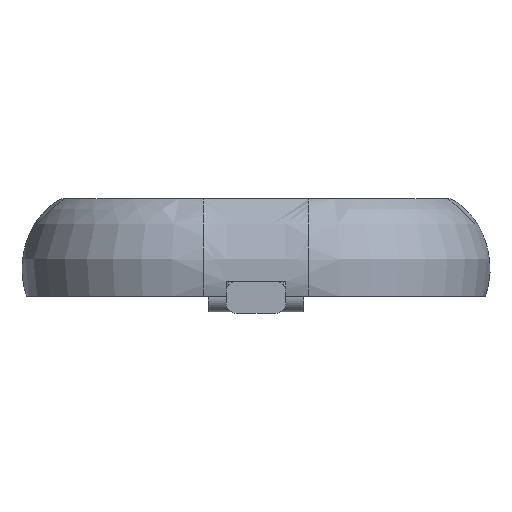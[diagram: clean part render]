
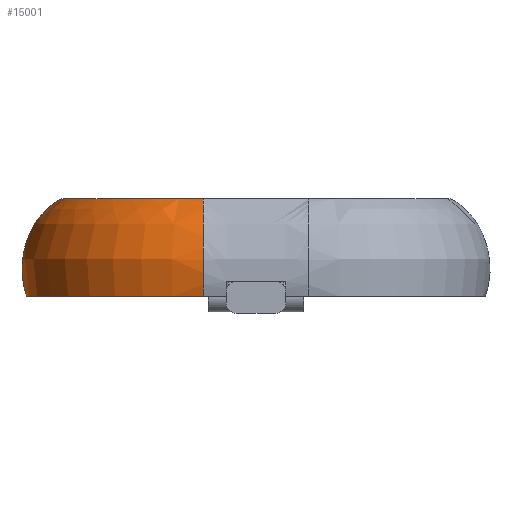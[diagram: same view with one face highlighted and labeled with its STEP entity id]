
A CAD part, front view. The second image highlights one B-rep face of the part: STEP entity #15001.
In plain terms, the highlighted free-form (B-spline) face has degree [9, 3] with [10, 4] control points.
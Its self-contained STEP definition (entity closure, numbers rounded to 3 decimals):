
#4782 = EDGE_CURVE('',#4783,#4785,#4787,.T.);
#4783 = VERTEX_POINT('',#4784);
#4784 = CARTESIAN_POINT('',(-65.,45.,40.3));
#4785 = VERTEX_POINT('',#4786);
#4786 = CARTESIAN_POINT('',(-15.,-5.,40.3));
#4787 = CIRCLE('',#4788,50.);
#4788 = AXIS2_PLACEMENT_3D('',#4789,#4790,#4791);
#4789 = CARTESIAN_POINT('',(-15.,45.,40.3));
#4790 = DIRECTION('',(0.,0.,1.));
#4791 = DIRECTION('',(-1.,0.,0.));
#8062 = VERTEX_POINT('',#8063);
#8063 = CARTESIAN_POINT('',(-15.,5.,68.));
#8129 = VERTEX_POINT('',#8130);
#8130 = CARTESIAN_POINT('',(-55.,45.,68.));
#8143 = EDGE_CURVE('',#8129,#8062,#8144,.T.);
#8144 = CIRCLE('',#8145,40.);
#8145 = AXIS2_PLACEMENT_3D('',#8146,#8147,#8148);
#8146 = CARTESIAN_POINT('',(-15.,45.,68.));
#8147 = DIRECTION('',(0.,0.,1.));
#8148 = DIRECTION('',(-1.,0.,0.));
#15001 = ADVANCED_FACE('',(#15002),#15020,.T.);
#15002 = FACE_BOUND('',#15003,.T.);
#15003 = EDGE_LOOP('',(#15004,#15005,#15012,#15013));
#15004 = ORIENTED_EDGE('',*,*,#4782,.T.);
#15005 = ORIENTED_EDGE('',*,*,#15006,.T.);
#15006 = EDGE_CURVE('',#4785,#8062,#15007,.T.);
#15007 = ( BOUNDED_CURVE() B_SPLINE_CURVE(3,(#15008,#15009,#15010,#15011
),.UNSPECIFIED.,.F.,.F.) B_SPLINE_CURVE_WITH_KNOTS((4,4),(0.,1.),
.PIECEWISE_BEZIER_KNOTS.) CURVE() GEOMETRIC_REPRESENTATION_ITEM() 
RATIONAL_B_SPLINE_CURVE((1.,1.,1.,1.)) REPRESENTATION_ITEM('') );
#15008 = CARTESIAN_POINT('',(-15.,-5.,40.3));
#15009 = CARTESIAN_POINT('',(-15.,-8.668,50.078));
#15010 = CARTESIAN_POINT('',(-15.,-4.646,63.426));
#15011 = CARTESIAN_POINT('',(-15.,5.,68.));
#15012 = ORIENTED_EDGE('',*,*,#8143,.F.);
#15013 = ORIENTED_EDGE('',*,*,#15014,.F.);
#15014 = EDGE_CURVE('',#4783,#8129,#15015,.T.);
#15015 = ( BOUNDED_CURVE() B_SPLINE_CURVE(3,(#15016,#15017,#15018,#15019
),.UNSPECIFIED.,.F.,.F.) B_SPLINE_CURVE_WITH_KNOTS((4,4),(0.,1.),
.PIECEWISE_BEZIER_KNOTS.) CURVE() GEOMETRIC_REPRESENTATION_ITEM() 
RATIONAL_B_SPLINE_CURVE((1.,1.,1.,1.)) REPRESENTATION_ITEM('') );
#15016 = CARTESIAN_POINT('',(-65.,45.,40.3));
#15017 = CARTESIAN_POINT('',(-68.668,45.,50.078));
#15018 = CARTESIAN_POINT('',(-64.646,45.,63.426));
#15019 = CARTESIAN_POINT('',(-55.,45.,68.));
#15020 = ( BOUNDED_SURFACE() B_SPLINE_SURFACE(9,3,(
    (#15021,#15022,#15023,#15024)
    ,(#15025,#15026,#15027,#15028)
    ,(#15029,#15030,#15031,#15032)
    ,(#15033,#15034,#15035,#15036)
    ,(#15037,#15038,#15039,#15040)
    ,(#15041,#15042,#15043,#15044)
    ,(#15045,#15046,#15047,#15048)
    ,(#15049,#15050,#15051,#15052)
    ,(#15053,#15054,#15055,#15056)
    ,(#15057,#15058,#15059,#15060
)),.UNSPECIFIED.,.F.,.F.,.F.) B_SPLINE_SURFACE_WITH_KNOTS((10,10),(4,4),
  (7.,8.),(0.,1.),.PIECEWISE_BEZIER_KNOTS.) 
GEOMETRIC_REPRESENTATION_ITEM() RATIONAL_B_SPLINE_SURFACE((
    (1.,1.,1.,1.)
    ,(1.,1.,1.,1.)
    ,(1.,1.,1.,1.)
    ,(1.,1.,1.,1.)
    ,(1.,1.,1.,1.)
    ,(1.,1.,1.,1.)
    ,(1.,1.,1.,1.)
    ,(1.,1.,1.,1.)
    ,(1.,1.,1.,1.)
,(1.,1.,1.,1.))) REPRESENTATION_ITEM('') SURFACE() );
#15021 = CARTESIAN_POINT('',(-65.,45.,40.3));
#15022 = CARTESIAN_POINT('',(-68.668,45.,50.078));
#15023 = CARTESIAN_POINT('',(-64.646,45.,63.426));
#15024 = CARTESIAN_POINT('',(-55.,45.,68.));
#15025 = CARTESIAN_POINT('',(-65.,36.273,40.3));
#15026 = CARTESIAN_POINT('',(-68.668,35.633,
    50.078));
#15027 = CARTESIAN_POINT('',(-64.646,36.335,
    63.426));
#15028 = CARTESIAN_POINT('',(-55.,38.019,68.));
#15029 = CARTESIAN_POINT('',(-63.287,27.547,40.3));
#15030 = CARTESIAN_POINT('',(-66.828,26.266,
    50.078));
#15031 = CARTESIAN_POINT('',(-62.945,27.67,
    63.426));
#15032 = CARTESIAN_POINT('',(-53.629,31.037,68.));
#15033 = CARTESIAN_POINT('',(-59.86,19.205,40.3));
#15034 = CARTESIAN_POINT('',(-63.15,17.312,
    50.078));
#15035 = CARTESIAN_POINT('',(-59.542,19.387,
    63.426));
#15036 = CARTESIAN_POINT('',(-50.888,24.364,68.));
#15037 = CARTESIAN_POINT('',(-54.82,11.631,40.3));
#15038 = CARTESIAN_POINT('',(-57.741,9.184,
    50.078));
#15039 = CARTESIAN_POINT('',(-54.538,11.867,
    63.426));
#15040 = CARTESIAN_POINT('',(-46.856,18.305,68.));
#15041 = CARTESIAN_POINT('',(-48.369,5.18,40.3));
#15042 = CARTESIAN_POINT('',(-50.816,2.259,
    50.078));
#15043 = CARTESIAN_POINT('',(-48.133,5.462,
    63.426));
#15044 = CARTESIAN_POINT('',(-41.695,13.144,68.));
#15045 = CARTESIAN_POINT('',(-40.795,0.14,40.3));
#15046 = CARTESIAN_POINT('',(-42.688,-3.15,
    50.078));
#15047 = CARTESIAN_POINT('',(-40.613,0.458,
    63.426));
#15048 = CARTESIAN_POINT('',(-35.636,9.112,68.));
#15049 = CARTESIAN_POINT('',(-32.453,-3.287,40.3));
#15050 = CARTESIAN_POINT('',(-33.734,-6.828,
    50.078));
#15051 = CARTESIAN_POINT('',(-32.33,-2.945,
    63.426));
#15052 = CARTESIAN_POINT('',(-28.963,6.371,68.));
#15053 = CARTESIAN_POINT('',(-23.727,-5.,40.3));
#15054 = CARTESIAN_POINT('',(-24.367,-8.668,
    50.078));
#15055 = CARTESIAN_POINT('',(-23.665,-4.646,
    63.426));
#15056 = CARTESIAN_POINT('',(-21.981,5.,68.));
#15057 = CARTESIAN_POINT('',(-15.,-5.,40.3));
#15058 = CARTESIAN_POINT('',(-15.,-8.668,50.078));
#15059 = CARTESIAN_POINT('',(-15.,-4.646,63.426));
#15060 = CARTESIAN_POINT('',(-15.,5.,68.));
